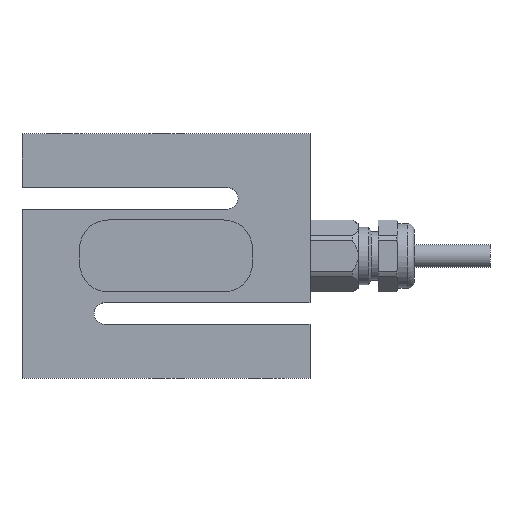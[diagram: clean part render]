
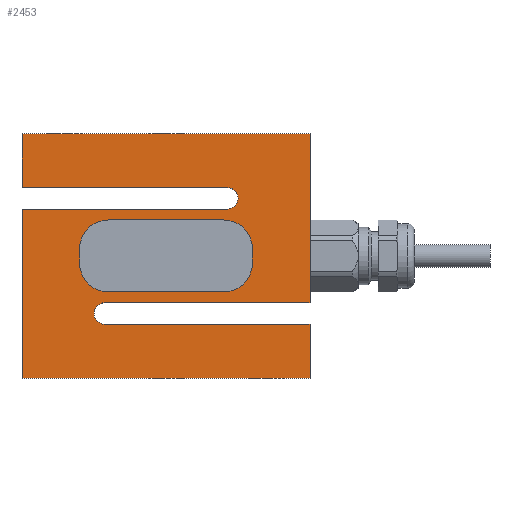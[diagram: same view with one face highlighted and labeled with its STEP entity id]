
A CAD part, top view. The second image highlights one B-rep face of the part: STEP entity #2453.
In plain terms, the highlighted planar face has unit normal (0, 0, 1).
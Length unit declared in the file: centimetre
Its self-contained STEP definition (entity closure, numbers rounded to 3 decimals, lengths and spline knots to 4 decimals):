
#530=CIRCLE('',#2559,0.4);
#531=CIRCLE('',#2563,0.4);
#546=CIRCLE('',#2591,0.4);
#547=CIRCLE('',#2594,0.4);
#550=CIRCLE('',#2603,0.15);
#552=CIRCLE('',#2606,0.15);
#643=PLANE('',#2611);
#697=VECTOR('',#2827,1.);
#704=VECTOR('',#2844,1.);
#711=VECTOR('',#2901,1.);
#713=VECTOR('',#2908,1.);
#721=VECTOR('',#2923,1.);
#727=VECTOR('',#2942,1.);
#728=VECTOR('',#2944,1.);
#731=VECTOR('',#2948,1.);
#736=VECTOR('',#2954,1.);
#737=VECTOR('',#2956,1.);
#738=VECTOR('',#2957,1.);
#739=VECTOR('',#2958,1.);
#847=LINE('',#3461,#697);
#854=LINE('',#3479,#704);
#861=LINE('',#3528,#711);
#863=LINE('',#3534,#713);
#871=LINE('',#3553,#721);
#877=LINE('',#3574,#727);
#878=LINE('',#3576,#728);
#881=LINE('',#3582,#731);
#886=LINE('',#3592,#736);
#887=LINE('',#3594,#737);
#888=LINE('',#3596,#738);
#889=LINE('',#3598,#739);
#1008=VERTEX_POINT('',#3454);
#1009=VERTEX_POINT('',#3456);
#1010=VERTEX_POINT('',#3460);
#1013=VERTEX_POINT('',#3470);
#1015=VERTEX_POINT('',#3478);
#1030=VERTEX_POINT('',#3523);
#1031=VERTEX_POINT('',#3527);
#1032=VERTEX_POINT('',#3531);
#1036=VERTEX_POINT('',#3548);
#1038=VERTEX_POINT('',#3552);
#1040=VERTEX_POINT('',#3558);
#1043=VERTEX_POINT('',#3565);
#1044=VERTEX_POINT('',#3567);
#1046=VERTEX_POINT('',#3573);
#1047=VERTEX_POINT('',#3577);
#1049=VERTEX_POINT('',#3583);
#1052=VERTEX_POINT('',#3591);
#1053=VERTEX_POINT('',#3595);
#1054=VERTEX_POINT('',#3597);
#1055=VERTEX_POINT('',#3599);
#1243=EDGE_CURVE('',#1008,#1009,#530,.T.);
#1246=EDGE_CURVE('',#1008,#1010,#847,.T.);
#1251=EDGE_CURVE('',#1013,#1010,#531,.T.);
#1255=EDGE_CURVE('',#1013,#1015,#854,.T.);
#1274=EDGE_CURVE('',#1030,#1015,#546,.T.);
#1276=EDGE_CURVE('',#1030,#1031,#861,.T.);
#1278=EDGE_CURVE('',#1032,#1031,#547,.T.);
#1279=EDGE_CURVE('',#1032,#1009,#863,.T.);
#1288=EDGE_CURVE('',#1036,#1038,#871,.T.);
#1290=EDGE_CURVE('',#1036,#1040,#550,.T.);
#1294=EDGE_CURVE('',#1043,#1044,#552,.T.);
#1298=EDGE_CURVE('',#1043,#1046,#877,.T.);
#1299=EDGE_CURVE('',#1047,#1040,#878,.T.);
#1302=EDGE_CURVE('',#1049,#1044,#881,.T.);
#1307=EDGE_CURVE('',#1052,#1038,#886,.T.);
#1308=EDGE_CURVE('',#1053,#1052,#887,.T.);
#1309=EDGE_CURVE('',#1049,#1053,#888,.T.);
#1310=EDGE_CURVE('',#1054,#1046,#888,.T.);
#1311=EDGE_CURVE('',#1055,#1054,#889,.T.);
#1312=EDGE_CURVE('',#1047,#1055,#886,.T.);
#1653=ORIENTED_EDGE('',*,*,#1255,.T.);
#1654=ORIENTED_EDGE('',*,*,#1274,.F.);
#1655=ORIENTED_EDGE('',*,*,#1276,.T.);
#1656=ORIENTED_EDGE('',*,*,#1278,.F.);
#1657=ORIENTED_EDGE('',*,*,#1279,.T.);
#1658=ORIENTED_EDGE('',*,*,#1243,.F.);
#1659=ORIENTED_EDGE('',*,*,#1246,.T.);
#1660=ORIENTED_EDGE('',*,*,#1251,.F.);
#1661=ORIENTED_EDGE('',*,*,#1299,.T.);
#1662=ORIENTED_EDGE('',*,*,#1290,.F.);
#1663=ORIENTED_EDGE('',*,*,#1288,.T.);
#1664=ORIENTED_EDGE('',*,*,#1307,.F.);
#1665=ORIENTED_EDGE('',*,*,#1308,.F.);
#1666=ORIENTED_EDGE('',*,*,#1309,.F.);
#1667=ORIENTED_EDGE('',*,*,#1302,.T.);
#1668=ORIENTED_EDGE('',*,*,#1294,.F.);
#1669=ORIENTED_EDGE('',*,*,#1298,.T.);
#1670=ORIENTED_EDGE('',*,*,#1310,.F.);
#1671=ORIENTED_EDGE('',*,*,#1311,.F.);
#1672=ORIENTED_EDGE('',*,*,#1312,.F.);
#2136=EDGE_LOOP('',(#1653,#1654,#1655,#1656,#1657,#1658,#1659,#1660));
#2137=EDGE_LOOP('',(#1661,#1662,#1663,#1664,#1665,#1666,#1667,#1668,#1669,
#1670,#1671,#1672));
#2300=FACE_BOUND('',#2136,.T.);
#2301=FACE_BOUND('',#2137,.T.);
#2453=ADVANCED_FACE('',(#2300,#2301),#643,.T.);
#2559=AXIS2_PLACEMENT_3D('',#3455,#2822,#2823);
#2563=AXIS2_PLACEMENT_3D('',#3471,#2835,#2836);
#2591=AXIS2_PLACEMENT_3D('',#3524,#2897,#2898);
#2594=AXIS2_PLACEMENT_3D('',#3532,#2905,#2906);
#2603=AXIS2_PLACEMENT_3D('',#3557,#2928,#2929);
#2606=AXIS2_PLACEMENT_3D('',#3566,#2936,#2937);
#2611=AXIS2_PLACEMENT_3D('',#3593,#2955,$);
#2822=DIRECTION('',(0.,0.,1.));
#2823=DIRECTION('',(0.283,-0.283,0.));
#2827=DIRECTION('',(-1.,0.,0.));
#2835=DIRECTION('',(0.,0.,1.));
#2836=DIRECTION('',(-0.283,-0.283,0.));
#2844=DIRECTION('',(0.,1.,0.));
#2897=DIRECTION('',(0.,0.,1.));
#2898=DIRECTION('',(-0.283,0.283,0.));
#2901=DIRECTION('',(1.,0.,0.));
#2905=DIRECTION('',(0.,0.,1.));
#2906=DIRECTION('',(0.283,0.283,0.));
#2908=DIRECTION('',(0.,-1.,0.));
#2923=DIRECTION('',(1.,0.,0.));
#2928=DIRECTION('',(0.,0.,1.));
#2929=DIRECTION('',(-0.106,-0.106,0.));
#2936=DIRECTION('',(0.,0.,1.));
#2937=DIRECTION('',(0.106,-0.106,0.));
#2942=DIRECTION('',(-1.,0.,0.));
#2944=DIRECTION('',(-1.,0.,0.));
#2948=DIRECTION('',(1.,0.,0.));
#2954=DIRECTION('',(0.,-1.,0.));
#2955=DIRECTION('',(0.,0.,1.));
#2956=DIRECTION('',(1.,0.,0.));
#2957=DIRECTION('',(0.,1.,0.));
#2958=DIRECTION('',(-1.,0.,0.));
#3454=CARTESIAN_POINT('',(0.8,-0.5,0.5));
#3455=CARTESIAN_POINT('',(0.8,-0.1,0.5));
#3456=CARTESIAN_POINT('',(1.2,-0.1,0.5));
#3460=CARTESIAN_POINT('',(-0.8,-0.5,0.5));
#3461=CARTESIAN_POINT('',(0.,-0.5,0.5));
#3470=CARTESIAN_POINT('',(-1.2,-0.1,0.5));
#3471=CARTESIAN_POINT('',(-0.8,-0.1,0.5));
#3478=CARTESIAN_POINT('',(-1.2,0.1,0.5));
#3479=CARTESIAN_POINT('',(-1.2,0.,0.5));
#3523=CARTESIAN_POINT('',(-0.8,0.5,0.5));
#3524=CARTESIAN_POINT('',(-0.8,0.1,0.5));
#3527=CARTESIAN_POINT('',(0.8,0.5,0.5));
#3528=CARTESIAN_POINT('',(0.,0.5,0.5));
#3531=CARTESIAN_POINT('',(1.2,0.1,0.5));
#3532=CARTESIAN_POINT('',(0.8,0.1,0.5));
#3534=CARTESIAN_POINT('',(1.2,0.,0.5));
#3548=CARTESIAN_POINT('',(-0.85,-0.65,0.5));
#3552=CARTESIAN_POINT('',(2.,-0.65,0.5));
#3553=CARTESIAN_POINT('',(0.25,-0.65,0.5));
#3557=CARTESIAN_POINT('',(-0.85,-0.8,0.5));
#3558=CARTESIAN_POINT('',(-0.85,-0.95,0.5));
#3565=CARTESIAN_POINT('',(0.85,0.65,0.5));
#3566=CARTESIAN_POINT('',(0.85,0.8,0.5));
#3567=CARTESIAN_POINT('',(0.85,0.95,0.5));
#3573=CARTESIAN_POINT('',(-2.,0.65,0.5));
#3574=CARTESIAN_POINT('',(-0.25,0.65,0.5));
#3576=CARTESIAN_POINT('',(0.25,-0.95,0.5));
#3577=CARTESIAN_POINT('',(2.,-0.95,0.5));
#3582=CARTESIAN_POINT('',(-0.25,0.95,0.5));
#3583=CARTESIAN_POINT('',(-2.,0.95,0.5));
#3591=CARTESIAN_POINT('',(2.,1.7,0.5));
#3592=CARTESIAN_POINT('',(2.,-1.7,0.5));
#3593=CARTESIAN_POINT('',(0.,0.,0.5));
#3594=CARTESIAN_POINT('',(2.,1.7,0.5));
#3595=CARTESIAN_POINT('',(-2.,1.7,0.5));
#3596=CARTESIAN_POINT('',(-2.,1.7,0.5));
#3597=CARTESIAN_POINT('',(-2.,-1.7,0.5));
#3598=CARTESIAN_POINT('',(-2.,-1.7,0.5));
#3599=CARTESIAN_POINT('',(2.,-1.7,0.5));
